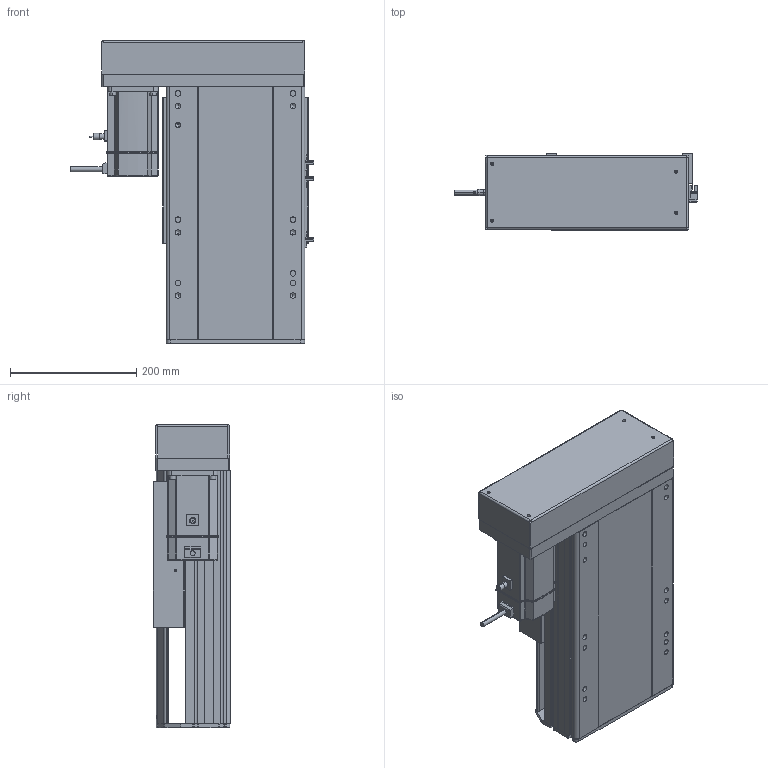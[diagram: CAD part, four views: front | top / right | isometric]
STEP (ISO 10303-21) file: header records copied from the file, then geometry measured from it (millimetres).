
FILE_DESCRIPTION (( 'STEP AP214' ), '1' );
FILE_NAME ('RTH22-XX-100-R-M75-C4.STEP', '2025-10-25T03:07:11', ( 'Microsoft' ), ( 'Microsoft' ), 'SwSTEP 2.0', 'SolidWorks 2018', '' );
FILE_SCHEMA (( 'AUTOMOTIVE_DESIGN' ));
Length unit declared in the file: millimetre
Products named in the file (10): N_RTH22-R-008-P75萇儂啣^RTH22-XX-XX-R-M75-C4; N_RTH22-GY-013外置感应片^RTH22-XX-XX-R-M75-C4; N_RTH22-L-007奻裔^RTH22-XX-XX-R-M75-C4; N_OMRON EE-SX672 传感器^RTH22-XX-XX-R-M75-C4; RTH22-XX-100-R-M75-C4; N_RTH22-L-011菁釱^RTH22-XX-XX-R-M75-C4; N_RTH22-L-004-SFS25賑釱^RTH22-XX-XX-R-M75-C4; N_RTH22-GY-001耜裔^RTH22-XX-XX-R-M75-C4; N_750W萇儂^RTH22-XX-XX-R-M75-C4; N_RTH22-L-018裔赽^RTH22-XX-XX-R-M75-C4
Assembly tree (11 placements, depth 2):
  RTH22-XX-100-R-M75-C4
    N_RTH22-L-011菁釱^RTH22-XX-XX-R-M75-C4
    N_RTH22-GY-001耜裔^RTH22-XX-XX-R-M75-C4
    N_750W萇儂^RTH22-XX-XX-R-M75-C4
    N_RTH22-R-008-P75萇儂啣^RTH22-XX-XX-R-M75-C4
    N_RTH22-L-007奻裔^RTH22-XX-XX-R-M75-C4
    N_OMRON EE-SX672 传感器^RTH22-XX-XX-R-M75-C4  x3
    N_RTH22-GY-013外置感应片^RTH22-XX-XX-R-M75-C4
    N_RTH22-L-004-SFS25賑釱^RTH22-XX-XX-R-M75-C4
    N_RTH22-L-018裔赽^RTH22-XX-XX-R-M75-C4
Bounding box: 384.7 x 122 x 479.7 mm (x, y, z)
Volume: 8411241.6 mm3; surface area: 1074357.2 mm2
Topology: 11 solids, 11 shells, 1520 faces, 4147 edges, 2683 vertices
Faces by surface type: plane 785, cylinder 414, bspline 279, cone 42
Entity records: 37335 total; most frequent: CARTESIAN_POINT 11610, ORIENTED_EDGE 5302, DIRECTION 4917, EDGE_CURVE 2651, VERTEX_POINT 1719, VECTOR 1681, LINE 1681, AXIS2_PLACEMENT_3D 1618
